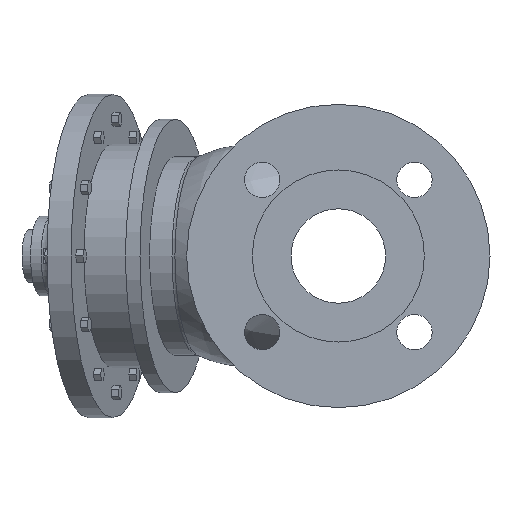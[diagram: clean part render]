
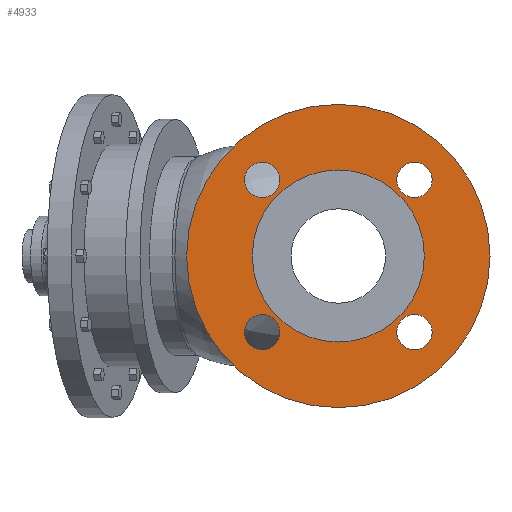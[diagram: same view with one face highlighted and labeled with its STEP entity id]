
A CAD part, left-side view. The second image highlights one B-rep face of the part: STEP entity #4933.
In plain terms, the highlighted planar face has unit normal (-1, 0, 0).
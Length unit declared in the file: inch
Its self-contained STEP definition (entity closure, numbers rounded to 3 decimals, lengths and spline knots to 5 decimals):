
#250=PLANE('',#5278);
#297=FACE_BOUND('',#912,.T.);
#298=FACE_BOUND('',#913,.T.);
#299=FACE_BOUND('',#914,.T.);
#300=FACE_BOUND('',#915,.T.);
#301=FACE_BOUND('',#916,.T.);
#618=FACE_OUTER_BOUND('',#911,.T.);
#911=EDGE_LOOP('',(#4353,#4354));
#912=EDGE_LOOP('',(#4355));
#913=EDGE_LOOP('',(#4356));
#914=EDGE_LOOP('',(#4357));
#915=EDGE_LOOP('',(#4358));
#916=EDGE_LOOP('',(#4359,#4360));
#1944=CIRCLE('',#4962,0.355);
#1946=CIRCLE('',#4965,0.355);
#1948=CIRCLE('',#4968,0.355);
#1950=CIRCLE('',#4971,0.355);
#2025=CIRCLE('',#5276,1.73);
#2026=CIRCLE('',#5277,1.73);
#2027=CIRCLE('',#5279,3.05);
#2028=CIRCLE('',#5280,3.05);
#2039=VERTEX_POINT('',#6517);
#2041=VERTEX_POINT('',#6523);
#2043=VERTEX_POINT('',#6529);
#2045=VERTEX_POINT('',#6535);
#2464=VERTEX_POINT('',#8992);
#2465=VERTEX_POINT('',#8993);
#2466=VERTEX_POINT('',#8998);
#2467=VERTEX_POINT('',#8999);
#2478=EDGE_CURVE('',#2039,#2039,#1944,.T.);
#2481=EDGE_CURVE('',#2041,#2041,#1946,.T.);
#2484=EDGE_CURVE('',#2043,#2043,#1948,.T.);
#2487=EDGE_CURVE('',#2045,#2045,#1950,.T.);
#3103=EDGE_CURVE('',#2464,#2465,#2025,.T.);
#3104=EDGE_CURVE('',#2465,#2464,#2026,.T.);
#3106=EDGE_CURVE('',#2466,#2467,#2027,.T.);
#3107=EDGE_CURVE('',#2467,#2466,#2028,.T.);
#4353=ORIENTED_EDGE('',*,*,#3106,.F.);
#4354=ORIENTED_EDGE('',*,*,#3107,.F.);
#4355=ORIENTED_EDGE('',*,*,#2478,.T.);
#4356=ORIENTED_EDGE('',*,*,#2481,.T.);
#4357=ORIENTED_EDGE('',*,*,#2484,.T.);
#4358=ORIENTED_EDGE('',*,*,#2487,.T.);
#4359=ORIENTED_EDGE('',*,*,#3103,.T.);
#4360=ORIENTED_EDGE('',*,*,#3104,.T.);
#4933=ADVANCED_FACE('',(#618,#297,#298,#299,#300,#301),#250,.T.);
#4962=AXIS2_PLACEMENT_3D('',#6518,#5315,#5316);
#4965=AXIS2_PLACEMENT_3D('',#6524,#5322,#5323);
#4968=AXIS2_PLACEMENT_3D('',#6530,#5329,#5330);
#4971=AXIS2_PLACEMENT_3D('',#6536,#5336,#5337);
#5276=AXIS2_PLACEMENT_3D('',#8994,#6441,#6442);
#5277=AXIS2_PLACEMENT_3D('',#8995,#6443,#6444);
#5278=AXIS2_PLACEMENT_3D('',#8997,#6446,#6447);
#5279=AXIS2_PLACEMENT_3D('',#9000,#6448,#6449);
#5280=AXIS2_PLACEMENT_3D('',#9001,#6450,#6451);
#5315=DIRECTION('center_axis',(1.,0.,0.));
#5316=DIRECTION('ref_axis',(0.,1.,0.));
#5322=DIRECTION('center_axis',(1.,0.,0.));
#5323=DIRECTION('ref_axis',(0.,0.,-1.));
#5329=DIRECTION('center_axis',(1.,0.,0.));
#5330=DIRECTION('ref_axis',(0.,-1.,0.));
#5336=DIRECTION('center_axis',(1.,0.,0.));
#5337=DIRECTION('ref_axis',(0.,0.,1.));
#6441=DIRECTION('center_axis',(1.,0.,0.));
#6442=DIRECTION('ref_axis',(0.,0.,-1.));
#6443=DIRECTION('center_axis',(1.,0.,0.));
#6444=DIRECTION('ref_axis',(0.,0.,-1.));
#6446=DIRECTION('center_axis',(-1.,0.,0.));
#6447=DIRECTION('ref_axis',(0.,0.,1.));
#6448=DIRECTION('center_axis',(1.,0.,0.));
#6449=DIRECTION('ref_axis',(0.,0.,-1.));
#6450=DIRECTION('center_axis',(1.,0.,0.));
#6451=DIRECTION('ref_axis',(0.,0.,-1.));
#6517=CARTESIAN_POINT('',(-3.955,-1.88589,-1.53089));
#6518=CARTESIAN_POINT('Origin',(-3.955,-1.53089,-1.53089));
#6523=CARTESIAN_POINT('',(-3.955,-1.53089,1.88589));
#6524=CARTESIAN_POINT('Origin',(-3.955,-1.53089,1.53089));
#6529=CARTESIAN_POINT('',(-3.955,1.88589,1.53089));
#6530=CARTESIAN_POINT('Origin',(-3.955,1.53089,1.53089));
#6535=CARTESIAN_POINT('',(-3.955,1.53089,-1.88589));
#6536=CARTESIAN_POINT('Origin',(-3.955,1.53089,-1.53089));
#8992=CARTESIAN_POINT('',(-3.955,1.73,0.));
#8993=CARTESIAN_POINT('',(-3.955,-1.73,0.));
#8994=CARTESIAN_POINT('Origin',(-3.955,0.,0.));
#8995=CARTESIAN_POINT('Origin',(-3.955,0.,0.));
#8997=CARTESIAN_POINT('Origin',(-3.955,3.05,0.));
#8998=CARTESIAN_POINT('',(-3.955,3.05,0.));
#8999=CARTESIAN_POINT('',(-3.955,-3.05,0.));
#9000=CARTESIAN_POINT('Origin',(-3.955,0.,0.));
#9001=CARTESIAN_POINT('Origin',(-3.955,0.,0.));
